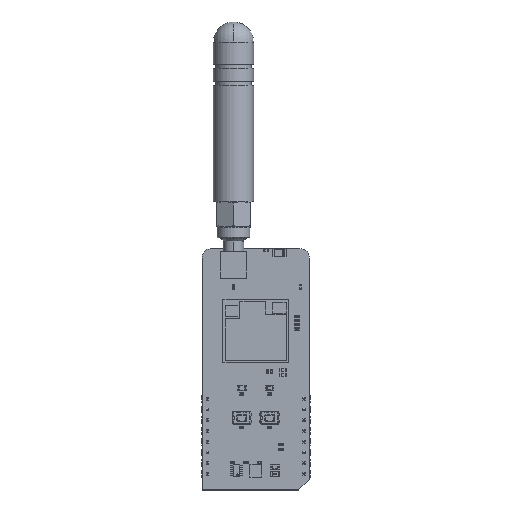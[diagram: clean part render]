
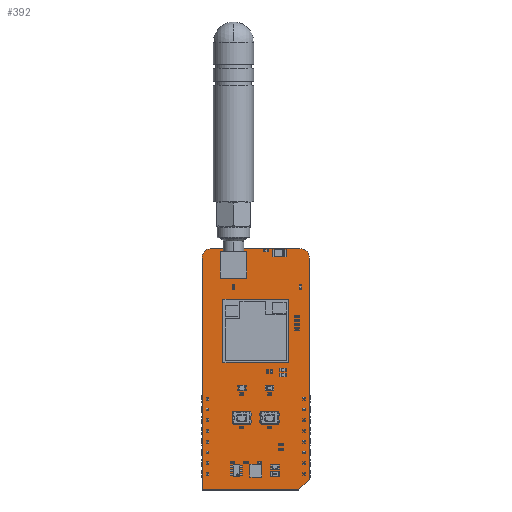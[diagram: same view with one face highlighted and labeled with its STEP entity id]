
A CAD part, top view. The second image highlights one B-rep face of the part: STEP entity #392.
In plain terms, the highlighted planar face has unit normal (0, 0, 1).
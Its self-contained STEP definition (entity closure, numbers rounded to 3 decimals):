
#163 = VERTEX_POINT('',#164);
#164 = CARTESIAN_POINT('',(-1.27,-3.81,0.));
#170 = EDGE_CURVE('',#163,#171,#173,.T.);
#171 = VERTEX_POINT('',#172);
#172 = CARTESIAN_POINT('',(-1.27,51.054,0.));
#173 = LINE('',#174,#175);
#174 = CARTESIAN_POINT('',(-1.27,-3.81,0.));
#175 = VECTOR('',#176,1.);
#176 = DIRECTION('',(0.,1.,0.));
#201 = EDGE_CURVE('',#171,#202,#204,.T.);
#202 = VERTEX_POINT('',#203);
#203 = CARTESIAN_POINT('',(1.016,53.34,0.));
#204 = CIRCLE('',#205,2.288);
#205 = AXIS2_PLACEMENT_3D('',#206,#207,#208);
#206 = CARTESIAN_POINT('',(1.018,51.052,0.));
#207 = DIRECTION('',(0.,0.,-1.));
#208 = DIRECTION('',(-1.,0.001,0.));
#234 = EDGE_CURVE('',#202,#235,#237,.T.);
#235 = VERTEX_POINT('',#236);
#236 = CARTESIAN_POINT('',(21.844,53.34,0.));
#237 = LINE('',#238,#239);
#238 = CARTESIAN_POINT('',(1.016,53.34,0.));
#239 = VECTOR('',#240,1.);
#240 = DIRECTION('',(1.,0.,0.));
#265 = EDGE_CURVE('',#235,#266,#268,.T.);
#266 = VERTEX_POINT('',#267);
#267 = CARTESIAN_POINT('',(24.13,51.054,0.));
#268 = CIRCLE('',#269,2.288);
#269 = AXIS2_PLACEMENT_3D('',#270,#271,#272);
#270 = CARTESIAN_POINT('',(21.842,51.052,0.));
#271 = DIRECTION('',(0.,0.,-1.));
#272 = DIRECTION('',(0.001,1.,0.));
#298 = EDGE_CURVE('',#266,#299,#301,.T.);
#299 = VERTEX_POINT('',#300);
#300 = CARTESIAN_POINT('',(24.13,-1.27,0.));
#301 = LINE('',#302,#303);
#302 = CARTESIAN_POINT('',(24.13,51.054,0.));
#303 = VECTOR('',#304,1.);
#304 = DIRECTION('',(0.,-1.,0.));
#329 = EDGE_CURVE('',#299,#330,#332,.T.);
#330 = VERTEX_POINT('',#331);
#331 = CARTESIAN_POINT('',(21.59,-3.81,0.));
#332 = LINE('',#333,#334);
#333 = CARTESIAN_POINT('',(24.13,-1.27,0.));
#334 = VECTOR('',#335,1.);
#335 = DIRECTION('',(-0.707,-0.707,0.));
#360 = EDGE_CURVE('',#330,#163,#361,.T.);
#361 = LINE('',#362,#363);
#362 = CARTESIAN_POINT('',(21.59,-3.81,0.));
#363 = VECTOR('',#364,1.);
#364 = DIRECTION('',(-1.,0.,0.));
#392 = ADVANCED_FACE('',(#393),#402,.T.);
#393 = FACE_BOUND('',#394,.F.);
#394 = EDGE_LOOP('',(#395,#396,#397,#398,#399,#400,#401));
#395 = ORIENTED_EDGE('',*,*,#170,.T.);
#396 = ORIENTED_EDGE('',*,*,#201,.T.);
#397 = ORIENTED_EDGE('',*,*,#234,.T.);
#398 = ORIENTED_EDGE('',*,*,#265,.T.);
#399 = ORIENTED_EDGE('',*,*,#298,.T.);
#400 = ORIENTED_EDGE('',*,*,#329,.T.);
#401 = ORIENTED_EDGE('',*,*,#360,.T.);
#402 = PLANE('',#403);
#403 = AXIS2_PLACEMENT_3D('',#404,#405,#406);
#404 = CARTESIAN_POINT('',(-1.27,-3.81,0.));
#405 = DIRECTION('',(0.,0.,1.));
#406 = DIRECTION('',(1.,0.,0.));
